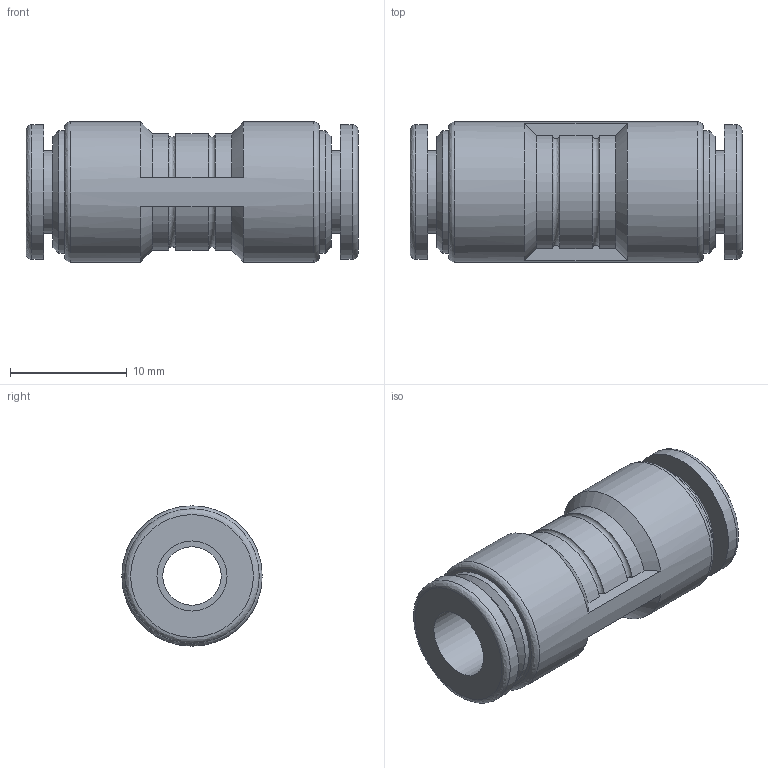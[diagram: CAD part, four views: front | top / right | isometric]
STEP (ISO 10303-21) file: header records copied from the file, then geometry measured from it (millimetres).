
FILE_DESCRIPTION((''),'2;1');
FILE_NAME('E:\2012年度板ﾃﾞｰﾀ\CHIYODA 3D-CAD DATA (Inventor 11)\TOUCH CONNECTOR FIVE (Inventor 11)\[14] UNION\[02] FR6-00U FR6-00UW.stp','2012-03-21T16:13:54',('kazuhiro.t'),(''),'Autodesk Inventor 11','Autodesk Inventor 11','');
FILE_SCHEMA(('AUTOMOTIVE_DESIGN { 1 0 10303 214 1 1 1 1 }'));
Length unit declared in the file: millimetre
Products named in the file (1): [02] FR6-00U FR6-00UW
Bounding box: 28.4 x 12 x 12 mm (x, y, z)
Volume: 1985.8 mm3; surface area: 1972.7 mm2
Topology: 1 solids, 1 shells, 44 faces, 93 edges, 60 vertices
Faces by surface type: bspline 19, cylinder 9, plane 9, torus 4, cone 3
Full cylindrical faces by diameter (mm): 6 x1, 7.1 x1, 10.5 x1, 11.5 x1, 12 x1
Entity records: 1597 total; most frequent: CARTESIAN_POINT 770, DIRECTION 152, ORIENTED_EDGE 148, EDGE_CURVE 74, EDGE_LOOP 72, AXIS2_PLACEMENT_3D 68, VERTEX_POINT 58, FACE_OUTER_BOUND 44
